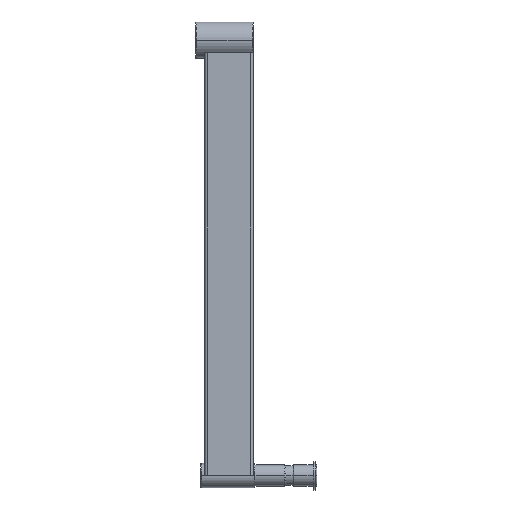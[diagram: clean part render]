
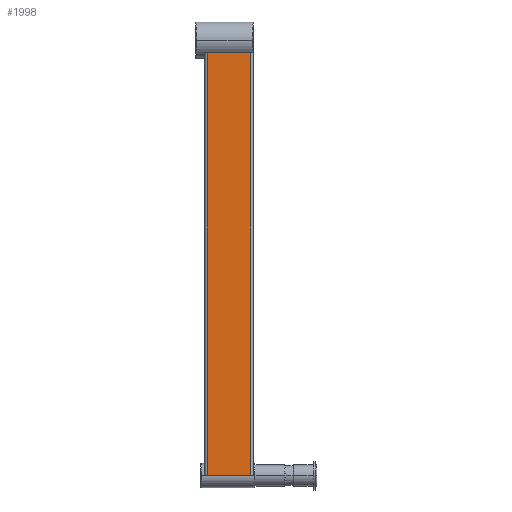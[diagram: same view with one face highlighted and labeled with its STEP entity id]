
A CAD part, left-side view. The second image highlights one B-rep face of the part: STEP entity #1998.
In plain terms, the highlighted planar face has unit normal (-1, 0, 0).
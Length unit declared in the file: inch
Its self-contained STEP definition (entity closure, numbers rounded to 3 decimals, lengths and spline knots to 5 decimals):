
#209 = LINE ( 'NONE', #4901, #992 ) ;
#248 = CARTESIAN_POINT ( 'NONE',  ( 0., -0.1, 8.7425 ) ) ;
#300 = CARTESIAN_POINT ( 'NONE',  ( 0., -1.9, -8.7425 ) ) ;
#463 = ORIENTED_EDGE ( 'NONE', *, *, #4313, .T. ) ;
#760 = VECTOR ( 'NONE', #6416, 39.37008 ) ;
#992 = VECTOR ( 'NONE', #1288, 39.37008 ) ;
#1033 = EDGE_LOOP ( 'NONE', ( #463, #2066, #6128, #6153 ) ) ;
#1152 = LINE ( 'NONE', #248, #760 ) ;
#1288 = DIRECTION ( 'NONE',  ( 0., -1., 0. ) ) ;
#1327 = CARTESIAN_POINT ( 'NONE',  ( 0., -0.1, -8.7425 ) ) ;
#1730 = EDGE_CURVE ( 'NONE', #5970, #1994, #5219, .T. ) ;
#1769 = LINE ( 'NONE', #4363, #3397 ) ;
#1945 = EDGE_CURVE ( 'NONE', #4720, #5497, #1769, .T. ) ;
#1994 = VERTEX_POINT ( 'NONE', #300 ) ;
#1998 = ADVANCED_FACE ( 'NONE', ( #5581 ), #6577, .F. ) ;
#2031 = CARTESIAN_POINT ( 'NONE',  ( 0., -1.9, 8.7425 ) ) ;
#2066 = ORIENTED_EDGE ( 'NONE', *, *, #1730, .F. ) ;
#2396 = CARTESIAN_POINT ( 'NONE',  ( 0., -0.1, 8.7425 ) ) ;
#3012 = DIRECTION ( 'NONE',  ( 1., 0., 0. ) ) ;
#3397 = VECTOR ( 'NONE', #6472, 39.37008 ) ;
#3460 = DIRECTION ( 'NONE',  ( 0., 1., 0. ) ) ;
#3667 = AXIS2_PLACEMENT_3D ( 'NONE', #2396, #3012, #3460 ) ;
#4313 = EDGE_CURVE ( 'NONE', #5497, #1994, #209, .T. ) ;
#4353 = EDGE_CURVE ( 'NONE', #4720, #5970, #1152, .T. ) ;
#4363 = CARTESIAN_POINT ( 'NONE',  ( 0., -0.1, 8.7425 ) ) ;
#4720 = VERTEX_POINT ( 'NONE', #6084 ) ;
#4727 = DIRECTION ( 'NONE',  ( 0., 0., -1. ) ) ;
#4901 = CARTESIAN_POINT ( 'NONE',  ( 0., -0.1, -8.7425 ) ) ;
#5176 = CARTESIAN_POINT ( 'NONE',  ( 0., -1.9, 8.7425 ) ) ;
#5219 = LINE ( 'NONE', #2031, #6843 ) ;
#5497 = VERTEX_POINT ( 'NONE', #1327 ) ;
#5581 = FACE_OUTER_BOUND ( 'NONE', #1033, .T. ) ;
#5970 = VERTEX_POINT ( 'NONE', #5176 ) ;
#6084 = CARTESIAN_POINT ( 'NONE',  ( 0., -0.1, 8.7425 ) ) ;
#6128 = ORIENTED_EDGE ( 'NONE', *, *, #4353, .F. ) ;
#6153 = ORIENTED_EDGE ( 'NONE', *, *, #1945, .T. ) ;
#6416 = DIRECTION ( 'NONE',  ( 0., -1., 0. ) ) ;
#6472 = DIRECTION ( 'NONE',  ( 0., 0., -1. ) ) ;
#6577 = PLANE ( 'NONE',  #3667 ) ;
#6843 = VECTOR ( 'NONE', #4727, 39.37008 ) ;
